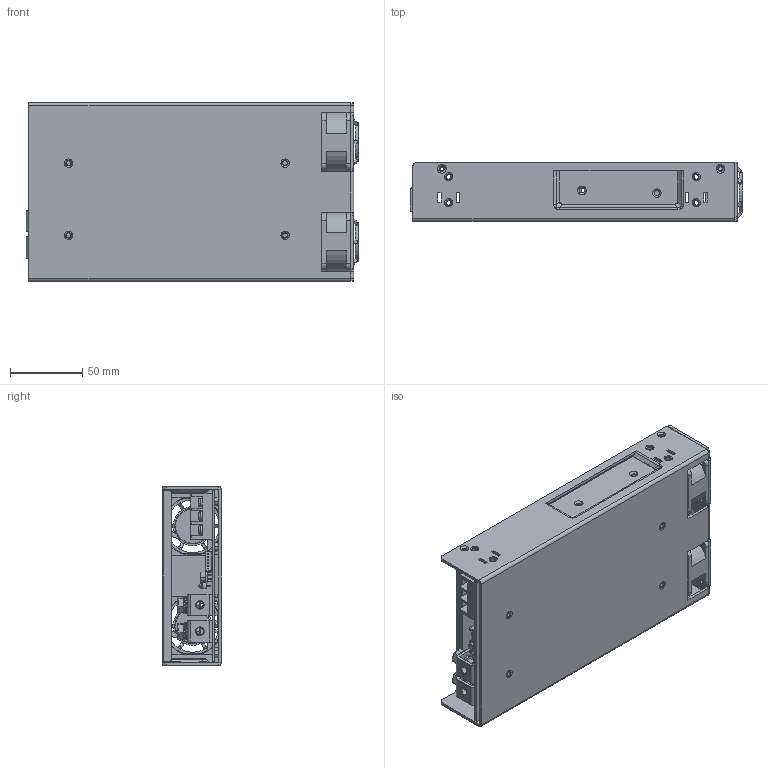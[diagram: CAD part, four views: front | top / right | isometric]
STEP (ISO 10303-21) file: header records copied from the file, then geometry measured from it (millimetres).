
FILE_DESCRIPTION((''),'2;1');
FILE_NAME('LRS-1200-3D_ASM','2025-06-05T15:42:40',('shalinice'),(''),'CREO PARAMETRIC BY PTC INC, 2017110','CREO PARAMETRIC BY PTC INC, 2017110','');
FILE_SCHEMA(('AUTOMOTIVE_DESIGN { 1 0 10303 214 1 1 1 1 }'));
Length unit declared in the file: millimetre
Products named in the file (12): LRS-1200-D; LRS-1200-T; P3_1; 4ASS4-6R0-12N; TB1_ASM; TB1; VR; 00; LRS-1200-R0X; LED; FAN; LRS-1200-3D_ASM
Assembly tree (13 placements, depth 3):
  LRS-1200-3D_ASM
    LRS-1200-D
    LRS-1200-T
    TB1_ASM  x2
      P3_1
      4ASS4-6R0-12N
    TB1
    VR
    00
    LRS-1200-R0X
    LED
    FAN  x2
Bounding box: 230 x 41 x 124 mm (x, y, z)
Volume: 180506.3 mm3; surface area: 230784.7 mm2
Topology: 15 solids, 23 shells, 1437 faces, 3544 edges, 2152 vertices
Faces by surface type: plane 620, cylinder 403, cone 158, torus 146, bspline 110
Entity records: 51624 total; most frequent: CARTESIAN_POINT 11779, DIRECTION 6142, ORIENTED_EDGE 6064, EDGE_CURVE 3034, AXIS2_PLACEMENT_3D 2192, VERTEX_POINT 1827, VECTOR 1758, LINE 1758
